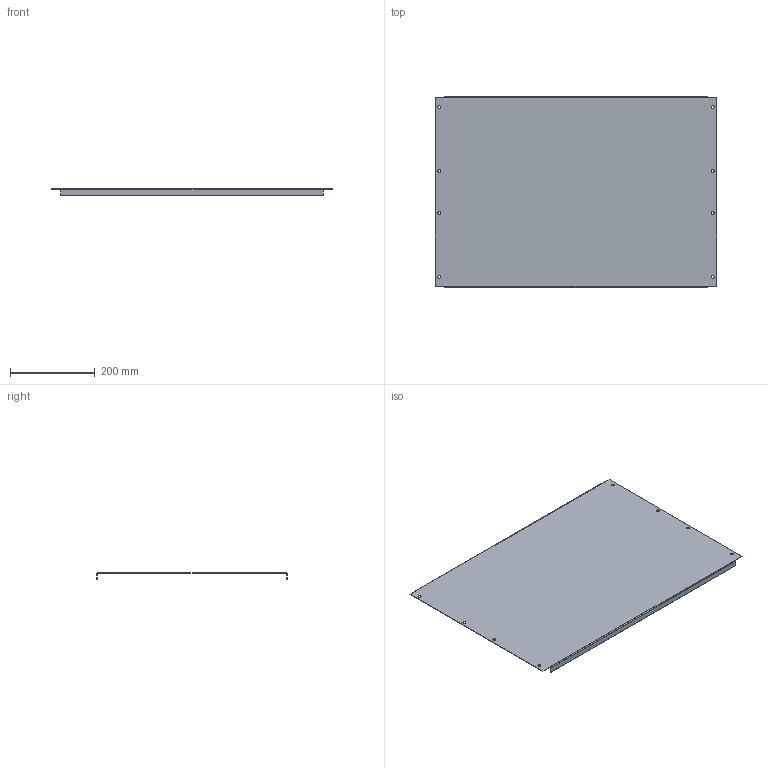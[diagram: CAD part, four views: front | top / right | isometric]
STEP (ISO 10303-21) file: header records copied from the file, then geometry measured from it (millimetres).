
FILE_DESCRIPTION (( 'STEP AP203' ), '1' );
FILE_NAME ('MB 45.70 Ïàíåëü ìîäóëüíàÿ.STEP', '2012-11-21T07:17:51', ( 'system' ), ( '' ), 'SwSTEP 2.0', 'SolidWorks 2012', '' );
FILE_SCHEMA (( 'CONFIG_CONTROL_DESIGN' ));
Length unit declared in the file: millimetre
Products named in the file (1): MB 45.70 Ïàíåëü ìîäóëüíàÿ
Bounding box: 665 x 449 x 15 mm (x, y, z)
Volume: 377021.1 mm3; surface area: 631315.8 mm2
Topology: 1 solids, 1 shells, 42 faces, 104 edges, 64 vertices
Faces by surface type: plane 22, cylinder 20
Entity records: 1349 total; most frequent: DIRECTION 230, CARTESIAN_POINT 211, ORIENTED_EDGE 208, EDGE_CURVE 104, AXIS2_PLACEMENT_3D 83, VECTOR 64, VERTEX_POINT 64, LINE 64
